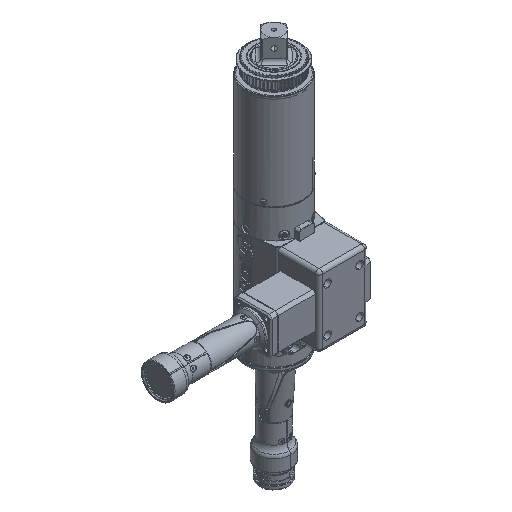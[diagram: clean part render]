
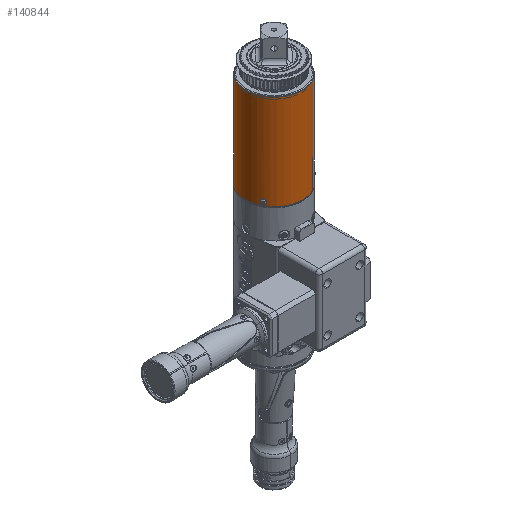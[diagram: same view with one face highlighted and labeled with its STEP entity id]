
A CAD part, isometric view. The second image highlights one B-rep face of the part: STEP entity #140844.
In plain terms, the highlighted cylindrical face has radius 38.735 mm (diameter 77.47 mm), a partial arc.
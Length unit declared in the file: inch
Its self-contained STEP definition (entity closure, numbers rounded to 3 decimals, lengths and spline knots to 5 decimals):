
#971 = CARTESIAN_POINT ( 'NONE',  ( -1.32069, -0.7625, 1.71002 ) ) ;
#1761 = CARTESIAN_POINT ( 'NONE',  ( -1.28556, -0.82035, 1.82715 ) ) ;
#3989 = CARTESIAN_POINT ( 'NONE',  ( -1.34383, -0.72095, 1.72598 ) ) ;
#5586 = CARTESIAN_POINT ( 'NONE',  ( -1.33983, -0.72834, 1.85568 ) ) ;
#7995 = EDGE_CURVE ( 'NONE', #69606, #130421, #62335, .T. ) ;
#8306 = DIRECTION ( 'NONE',  ( 0., 0., 1. ) ) ;
#8318 = CARTESIAN_POINT ( 'NONE',  ( -1.3207, -0.76248, 1.86602 ) ) ;
#8764 = CARTESIAN_POINT ( 'NONE',  ( -1.32581, -0.75358, 1.86551 ) ) ;
#8993 = EDGE_CURVE ( 'NONE', #130421, #69606, #54600, .T. ) ;
#13099 = CARTESIAN_POINT ( 'NONE',  ( -1.27996, -0.82905, 1.79325 ) ) ;
#14676 = CARTESIAN_POINT ( 'NONE',  ( -1.2886, -0.81556, 1.83563 ) ) ;
#16917 = CARTESIAN_POINT ( 'NONE',  ( -1.35078, -0.70787, 1.74007 ) ) ;
#19356 = CARTESIAN_POINT ( 'NONE',  ( -1.34912, -0.711, 1.83951 ) ) ;
#20927 = EDGE_CURVE ( 'NONE', #23007, #46951, #65312, .T. ) ;
#23007 = VERTEX_POINT ( 'NONE', #43005 ) ;
#23734 = DIRECTION ( 'NONE',  ( 0., 0., -1. ) ) ;
#24150 = CARTESIAN_POINT ( 'NONE',  ( -1.32069, -0.7625, 1.71002 ) ) ;
#26106 = CARTESIAN_POINT ( 'NONE',  ( -1.3207, -0.76248, 1.86602 ) ) ;
#27709 = CARTESIAN_POINT ( 'NONE',  ( -1.31561, -0.77129, 1.86603 ) ) ;
#28821 = CIRCLE ( 'NONE', #95907, 1.525 ) ;
#29133 = CARTESIAN_POINT ( 'NONE',  ( -1.33309, -0.74062, 1.71401 ) ) ;
#29950 = CARTESIAN_POINT ( 'NONE',  ( -1.35323, -0.70313, 1.82712 ) ) ;
#31048 = CARTESIAN_POINT ( 'NONE',  ( 0.7625, -1.32069, 1.55802 ) ) ;
#32388 = CARTESIAN_POINT ( 'NONE',  ( -1.3207, -0.76248, 1.86602 ) ) ;
#33510 = FACE_OUTER_BOUND ( 'NONE', #89690, .T. ) ;
#34783 = CARTESIAN_POINT ( 'NONE',  ( -1.33309, -0.74062, 1.86204 ) ) ;
#38309 = CARTESIAN_POINT ( 'NONE',  ( -1.29036, -0.81277, 1.83964 ) ) ;
#39103 = CARTESIAN_POINT ( 'NONE',  ( -1.31553, -0.77143, 1.71002 ) ) ;
#39895 = CARTESIAN_POINT ( 'NONE',  ( -1.28423, -0.82243, 1.75349 ) ) ;
#40538 = VERTEX_POINT ( 'NONE', #154535 ) ;
#40695 = CARTESIAN_POINT ( 'NONE',  ( -1.2961, -0.80362, 1.85042 ) ) ;
#41337 = CARTESIAN_POINT ( 'NONE',  ( -1.35346, -0.70271, 1.74877 ) ) ;
#42127 = CARTESIAN_POINT ( 'NONE',  ( -1.35773, -0.6944, 1.79824 ) ) ;
#43005 = CARTESIAN_POINT ( 'NONE',  ( -0.7625, 1.32069, 1.55802 ) ) ;
#45597 = DIRECTION ( 'NONE',  ( 0., 0., 1. ) ) ;
#46951 = VERTEX_POINT ( 'NONE', #76566 ) ;
#49655 = CARTESIAN_POINT ( 'NONE',  ( -1.29621, -0.80342, 1.72608 ) ) ;
#51235 = CARTESIAN_POINT ( 'NONE',  ( -1.29031, -0.81285, 1.73652 ) ) ;
#53386 = VERTEX_POINT ( 'NONE', #131561 ) ;
#54600 = B_SPLINE_CURVE_WITH_KNOTS ( 'NONE', 3,
 ( #67984, #127003, #55843, #90566, #29133, #105170, #117300, #3989, #154427, #16917, #41337, #139949, #115672, #80853, #42127, #91393, #55046, #130212, #29950, #128618, #19356, #67193, #116490, #5586, #71945, #34783, #59030, #8764, #106759, #32388 ),
 .UNSPECIFIED., .F., .F.,
 ( 4, 2, 2, 2, 2, 2, 2, 2, 2, 2, 2, 2, 2, 2, 4 ),
 ( 0., 0.00039, 0.00077, 0.00116, 0.00155, 0.00232, 0.0031, 0.00348, 0.00387, 0.00426, 0.00465, 0.00503, 0.00542, 0.00581, 0.00619 ),
 .UNSPECIFIED. ) ;
#55046 = CARTESIAN_POINT ( 'NONE',  ( -1.35615, -0.69749, 1.81311 ) ) ;
#55843 = CARTESIAN_POINT ( 'NONE',  ( -1.32578, -0.75363, 1.71053 ) ) ;
#56133 = LINE ( 'NONE', #31048, #77584 ) ;
#57250 = EDGE_CURVE ( 'NONE', #40538, #53386, #56133, .T. ) ;
#58313 = AXIS2_PLACEMENT_3D ( 'NONE', #155565, #8306, #131339 ) ;
#59030 = CARTESIAN_POINT ( 'NONE',  ( -1.33072, -0.74487, 1.86351 ) ) ;
#59342 = CARTESIAN_POINT ( 'NONE',  ( 0., 0., 1.55802 ) ) ;
#61754 = CARTESIAN_POINT ( 'NONE',  ( -1.28023, -0.82863, 1.77787 ) ) ;
#62119 = DIRECTION ( 'NONE',  ( 0., 0., 1. ) ) ;
#62335 = B_SPLINE_CURVE_WITH_KNOTS ( 'NONE', 3,
 ( #26106, #27709, #74679, #149803, #40695, #38309, #14676, #1761, #75460, #124005, #124784, #150592, #13099, #62552, #61754, #99724, #73894, #39895, #64144, #111092, #51235, #123206, #49655, #113461, #63341, #98940, #39103, #971 ),
 .UNSPECIFIED., .F., .F.,
 ( 4, 2, 2, 2, 2, 2, 2, 2, 2, 2, 2, 2, 2, 4 ),
 ( 0.00619, 0.00697, 0.00774, 0.00813, 0.00852, 0.0089, 0.00929, 0.00968, 0.01007, 0.01045, 0.01084, 0.01123, 0.01161, 0.01239 ),
 .UNSPECIFIED. ) ;
#62552 = CARTESIAN_POINT ( 'NONE',  ( -1.27996, -0.82906, 1.78296 ) ) ;
#63341 = CARTESIAN_POINT ( 'NONE',  ( -1.30304, -0.79229, 1.71795 ) ) ;
#64144 = CARTESIAN_POINT ( 'NONE',  ( -1.28552, -0.82041, 1.74901 ) ) ;
#65312 = LINE ( 'NONE', #114595, #119573 ) ;
#67193 = CARTESIAN_POINT ( 'NONE',  ( -1.34571, -0.71743, 1.84679 ) ) ;
#67984 = CARTESIAN_POINT ( 'NONE',  ( -1.32069, -0.7625, 1.71002 ) ) ;
#69606 = VERTEX_POINT ( 'NONE', #8318 ) ;
#71945 = CARTESIAN_POINT ( 'NONE',  ( -1.33765, -0.73235, 1.85812 ) ) ;
#72337 = CARTESIAN_POINT ( 'NONE',  ( 0., 0., 6.67302 ) ) ;
#73894 = CARTESIAN_POINT ( 'NONE',  ( -1.28211, -0.82572, 1.76295 ) ) ;
#74679 = CARTESIAN_POINT ( 'NONE',  ( -1.31039, -0.78013, 1.86399 ) ) ;
#75460 = CARTESIAN_POINT ( 'NONE',  ( -1.28426, -0.82238, 1.82268 ) ) ;
#76566 = CARTESIAN_POINT ( 'NONE',  ( -0.7625, 1.32069, 6.67302 ) ) ;
#76576 = ORIENTED_EDGE ( 'NONE', *, *, #20927, .F. ) ;
#77584 = VECTOR ( 'NONE', #45597, 39.37008 ) ;
#80853 = CARTESIAN_POINT ( 'NONE',  ( -1.35796, -0.69395, 1.79307 ) ) ;
#82735 = DIRECTION ( 'NONE',  ( 0., 0., -1. ) ) ;
#82753 = FACE_BOUND ( 'NONE', #104981, .T. ) ;
#84015 = EDGE_CURVE ( 'NONE', #53386, #46951, #101099, .T. ) ;
#89690 = EDGE_LOOP ( 'NONE', ( #76576, #137764, #146557, #93720 ) ) ;
#90566 = CARTESIAN_POINT ( 'NONE',  ( -1.33068, -0.74495, 1.71251 ) ) ;
#91393 = CARTESIAN_POINT ( 'NONE',  ( -1.35682, -0.69617, 1.80824 ) ) ;
#93396 = AXIS2_PLACEMENT_3D ( 'NONE', #72337, #23734, #145882 ) ;
#93720 = ORIENTED_EDGE ( 'NONE', *, *, #84015, .T. ) ;
#95907 = AXIS2_PLACEMENT_3D ( 'NONE', #59342, #82735, #157921 ) ;
#98940 = CARTESIAN_POINT ( 'NONE',  ( -1.31032, -0.78024, 1.7121 ) ) ;
#99724 = CARTESIAN_POINT ( 'NONE',  ( -1.2813, -0.82698, 1.7679 ) ) ;
#101099 = CIRCLE ( 'NONE', #93396, 1.525 ) ;
#104647 = ORIENTED_EDGE ( 'NONE', *, *, #7995, .T. ) ;
#104981 = EDGE_LOOP ( 'NONE', ( #113388, #104647 ) ) ;
#105170 = CARTESIAN_POINT ( 'NONE',  ( -1.33765, -0.73235, 1.71793 ) ) ;
#106293 = CYLINDRICAL_SURFACE ( 'NONE', #58313, 1.525 ) ;
#106759 = CARTESIAN_POINT ( 'NONE',  ( -1.32325, -0.75807, 1.86602 ) ) ;
#111092 = CARTESIAN_POINT ( 'NONE',  ( -1.28855, -0.81564, 1.74054 ) ) ;
#113388 = ORIENTED_EDGE ( 'NONE', *, *, #8993, .T. ) ;
#113461 = CARTESIAN_POINT ( 'NONE',  ( -1.30067, -0.79617, 1.72038 ) ) ;
#114595 = CARTESIAN_POINT ( 'NONE',  ( -0.7625, 1.32069, 1.55802 ) ) ;
#115672 = CARTESIAN_POINT ( 'NONE',  ( -1.35796, -0.69396, 1.77781 ) ) ;
#116490 = CARTESIAN_POINT ( 'NONE',  ( -1.34385, -0.72091, 1.85003 ) ) ;
#117300 = CARTESIAN_POINT ( 'NONE',  ( -1.3398, -0.72842, 1.72032 ) ) ;
#119573 = VECTOR ( 'NONE', #62119, 39.37008 ) ;
#123206 = CARTESIAN_POINT ( 'NONE',  ( -1.29414, -0.80675, 1.72931 ) ) ;
#124005 = CARTESIAN_POINT ( 'NONE',  ( -1.28214, -0.82568, 1.81324 ) ) ;
#124784 = CARTESIAN_POINT ( 'NONE',  ( -1.28132, -0.82695, 1.80828 ) ) ;
#127003 = CARTESIAN_POINT ( 'NONE',  ( -1.32327, -0.75804, 1.71002 ) ) ;
#128618 = CARTESIAN_POINT ( 'NONE',  ( -1.35062, -0.70814, 1.83557 ) ) ;
#130212 = CARTESIAN_POINT ( 'NONE',  ( -1.35436, -0.70096, 1.82255 ) ) ;
#130421 = VERTEX_POINT ( 'NONE', #24150 ) ;
#131339 = DIRECTION ( 'NONE',  ( 0.5, -0.866, 0. ) ) ;
#131561 = CARTESIAN_POINT ( 'NONE',  ( 0.7625, -1.32069, 6.67302 ) ) ;
#137764 = ORIENTED_EDGE ( 'NONE', *, *, #149318, .F. ) ;
#139949 = CARTESIAN_POINT ( 'NONE',  ( -1.35703, -0.69579, 1.76754 ) ) ;
#140844 = ADVANCED_FACE ( 'NONE', ( #33510, #82753 ), #106293, .T. ) ;
#145882 = DIRECTION ( 'NONE',  ( -0.5, 0.866, 0. ) ) ;
#146557 = ORIENTED_EDGE ( 'NONE', *, *, #57250, .T. ) ;
#149318 = EDGE_CURVE ( 'NONE', #40538, #23007, #28821, .T. ) ;
#149803 = CARTESIAN_POINT ( 'NONE',  ( -1.30068, -0.79621, 1.85622 ) ) ;
#150592 = CARTESIAN_POINT ( 'NONE',  ( -1.28024, -0.82862, 1.79831 ) ) ;
#154427 = CARTESIAN_POINT ( 'NONE',  ( -1.34572, -0.71741, 1.72928 ) ) ;
#154535 = CARTESIAN_POINT ( 'NONE',  ( 0.7625, -1.32069, 1.55802 ) ) ;
#155565 = CARTESIAN_POINT ( 'NONE',  ( 0., 0., 1.55802 ) ) ;
#157921 = DIRECTION ( 'NONE',  ( -0.5, 0.866, 0. ) ) ;
